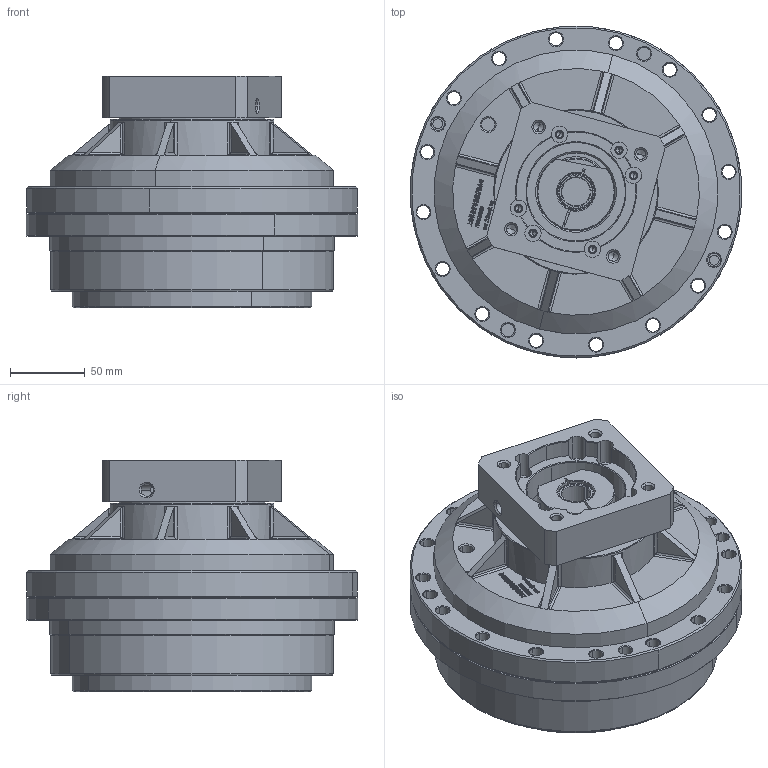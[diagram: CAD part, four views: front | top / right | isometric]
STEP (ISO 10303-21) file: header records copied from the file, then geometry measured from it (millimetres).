
FILE_DESCRIPTION (( 'STEP AP214' ), '1' );
FILE_NAME ('220BX-OP-80100.STEP', '2022-11-12T01:42:39', ( '' ), ( '' ), 'SwSTEP 2.0', 'SolidWorks 2020', '' );
FILE_SCHEMA (( 'AUTOMOTIVE_DESIGN' ));
Length unit declared in the file: millimetre
Products named in the file (9): 220BX-OP-80100; 萇儂假蚾楊擘80-100-70.stp; 220BX-012.stp; 22蛌19杶.stp; 锁紧器25-52H20.stp; 220BX-opx.stp; 220BX萇儂楊擘.stp; 220BX-OP-80100.stp; 錨璃160^220BX-OP-80100
Assembly tree (8 placements, depth 3):
  220BX-OP-80100
    220BX-OP-80100.stp
      220BX-opx.stp
      220BX萇儂楊擘.stp
      萇儂假蚾楊擘80-100-70.stp
      220BX-012.stp
      锁紧器25-52H20.stp
      22蛌19杶.stp
    錨璃160^220BX-OP-80100
Bounding box: 222 x 222 x 155 mm (x, y, z)
Volume: 3067018.6 mm3; surface area: 383298 mm2
Topology: 72 solids, 74 shells, 2591 faces, 6810 edges, 4383 vertices
Faces by surface type: plane 1253, bspline 572, cylinder 387, cone 379
Entity records: 122324 total; most frequent: CARTESIAN_POINT 43034, ORIENTED_EDGE 13488, DIRECTION 10488, EDGE_CURVE 6744, VERTEX_POINT 4383, VECTOR 4354, LINE 4354, AXIS2_PLACEMENT_3D 3067
